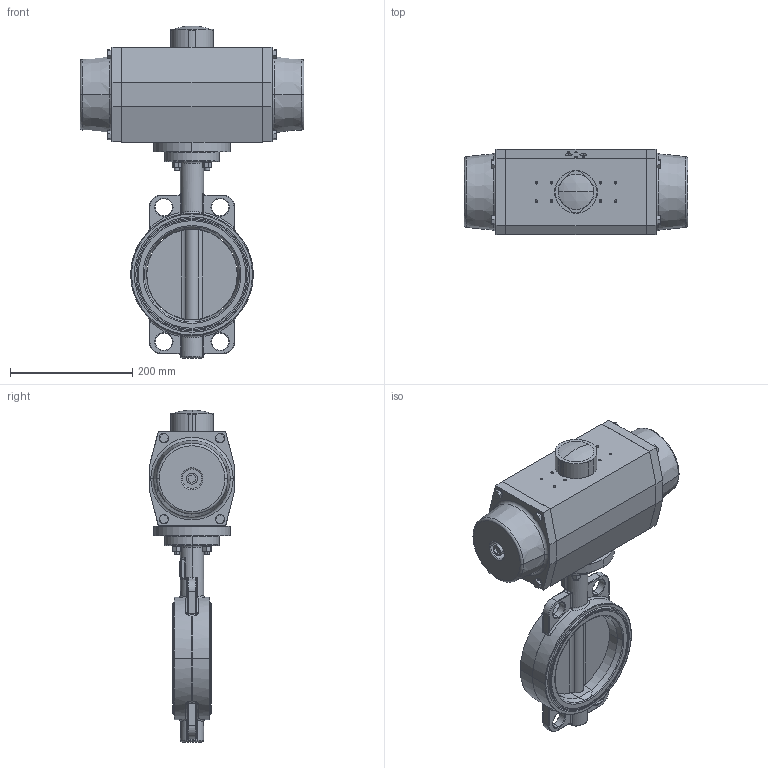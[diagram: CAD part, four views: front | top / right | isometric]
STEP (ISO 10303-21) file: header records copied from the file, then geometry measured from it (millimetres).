
FILE_DESCRIPTION (( 'STEP AP214' ), '1' );
FILE_NAME ('VTB200 DN150 + AP5S.STEP', '2015-10-04T19:19:49', ( '' ), ( '' ), 'SwSTEP 2.0', 'SolidWorks 2013', '' );
FILE_SCHEMA (( 'AUTOMOTIVE_DESIGN' ));
Length unit declared in the file: millimetre
Products named in the file (12): YF125F7F10H16D25NYL; plain washer clevis pin grade a_din_Washer ISO 8738 - 8; VERLSTER17_14; AP5_Default<As Machined>; VTB200 Wafer DN150 BS; Typeplaatje xxmm; Klep VTB200 DN150 2013; Huis met zitting DN150 2013; VTB200 DN150 + AP5S; socket head cap screw 4762_din_ISO 4762 M10 x 16 --- 16N; hex nut gradec_din_Hexagon Nut ISO 4034 - M8 - N; hex bolt gradeab_din_ISO 4014 - M8 x 40 x 22-N
Assembly tree (23 placements, depth 3):
  VTB200 DN150 + AP5S
    VTB200 Wafer DN150 BS
      Huis met zitting DN150 2013
      Klep VTB200 DN150 2013
      Typeplaatje xxmm
    AP5_Default<As Machined>
    VERLSTER17_14
    plain washer clevis pin grade a_din_Washer ISO 8738 - 8  x4
    YF125F7F10H16D25NYL
    hex bolt gradeab_din_ISO 4014 - M8 x 40 x 22-N  x4
    hex nut gradec_din_Hexagon Nut ISO 4034 - M8 - N  x4
    socket head cap screw 4762_din_ISO 4762 M10 x 16 --- 16N  x4
Bounding box: 366 x 140 x 543.4 mm (x, y, z)
Volume: 8020543.9 mm3; surface area: 560259.7 mm2
Topology: 31 solids, 31 shells, 1278 faces, 3012 edges, 1823 vertices
Faces by surface type: plane 564, cylinder 335, cone 161, bspline 109, torus 99, sphere 10
Entity records: 38529 total; most frequent: CARTESIAN_POINT 12783, DIRECTION 4781, ORIENTED_EDGE 4760, EDGE_CURVE 2380, AXIS2_PLACEMENT_3D 1784, VERTEX_POINT 1496, LINE 1213, VECTOR 1213
